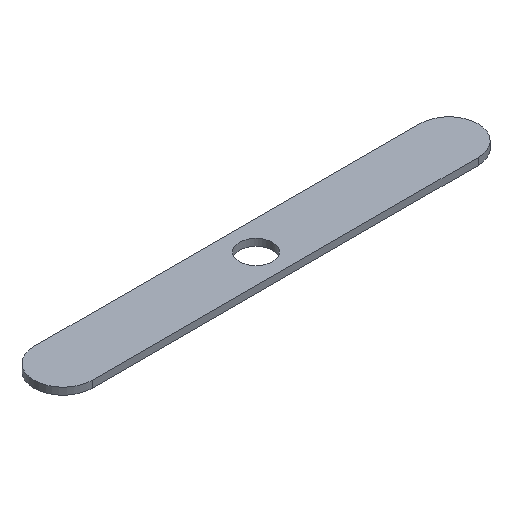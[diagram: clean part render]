
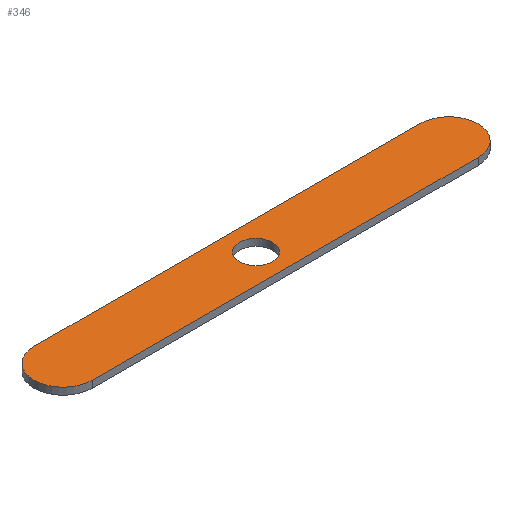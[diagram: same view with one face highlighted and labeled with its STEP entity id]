
A CAD part, isometric view. The second image highlights one B-rep face of the part: STEP entity #346.
In plain terms, the highlighted planar face has unit normal (0, 0, 1).
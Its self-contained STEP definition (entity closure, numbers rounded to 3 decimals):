
#24 = VERTEX_POINT('',#25);
#25 = CARTESIAN_POINT('',(-139.,21.,5.));
#32 = PLANE('',#33);
#33 = AXIS2_PLACEMENT_3D('',#34,#35,#36);
#34 = CARTESIAN_POINT('',(-139.,21.,0.));
#35 = DIRECTION('',(0.,1.,0.));
#36 = DIRECTION('',(1.,0.,0.));
#44 = CYLINDRICAL_SURFACE('',#45,21.);
#45 = AXIS2_PLACEMENT_3D('',#46,#47,#48);
#46 = CARTESIAN_POINT('',(-139.,0.,0.));
#47 = DIRECTION('',(0.,-0.,-1.));
#48 = DIRECTION('',(0.,-1.,0.));
#56 = EDGE_CURVE('',#24,#57,#59,.T.);
#57 = VERTEX_POINT('',#58);
#58 = CARTESIAN_POINT('',(139.,21.,5.));
#59 = SURFACE_CURVE('',#60,(#64,#71),.PCURVE_S1.);
#60 = LINE('',#61,#62);
#61 = CARTESIAN_POINT('',(-139.,21.,5.));
#62 = VECTOR('',#63,1.);
#63 = DIRECTION('',(1.,0.,0.));
#64 = PCURVE('',#32,#65);
#65 = DEFINITIONAL_REPRESENTATION('',(#66),#70);
#66 = LINE('',#67,#68);
#67 = CARTESIAN_POINT('',(0.,-5.));
#68 = VECTOR('',#69,1.);
#69 = DIRECTION('',(1.,0.));
#70 = ( GEOMETRIC_REPRESENTATION_CONTEXT(2) 
PARAMETRIC_REPRESENTATION_CONTEXT() REPRESENTATION_CONTEXT('2D SPACE',''
  ) );
#71 = PCURVE('',#72,#77);
#72 = PLANE('',#73);
#73 = AXIS2_PLACEMENT_3D('',#74,#75,#76);
#74 = CARTESIAN_POINT('',(0.,0.,5.));
#75 = DIRECTION('',(-0.,-0.,-1.));
#76 = DIRECTION('',(-1.,0.,0.));
#77 = DEFINITIONAL_REPRESENTATION('',(#78),#82);
#78 = LINE('',#79,#80);
#79 = CARTESIAN_POINT('',(139.,21.));
#80 = VECTOR('',#81,1.);
#81 = DIRECTION('',(-1.,0.));
#82 = ( GEOMETRIC_REPRESENTATION_CONTEXT(2) 
PARAMETRIC_REPRESENTATION_CONTEXT() REPRESENTATION_CONTEXT('2D SPACE',''
  ) );
#100 = CYLINDRICAL_SURFACE('',#101,21.);
#101 = AXIS2_PLACEMENT_3D('',#102,#103,#104);
#102 = CARTESIAN_POINT('',(139.,0.,0.));
#103 = DIRECTION('',(0.,0.,-1.));
#104 = DIRECTION('',(0.,1.,0.));
#144 = VERTEX_POINT('',#145);
#145 = CARTESIAN_POINT('',(-139.,-21.,5.));
#159 = PLANE('',#160);
#160 = AXIS2_PLACEMENT_3D('',#161,#162,#163);
#161 = CARTESIAN_POINT('',(139.,-21.,0.));
#162 = DIRECTION('',(0.,-1.,0.));
#163 = DIRECTION('',(-1.,0.,0.));
#171 = EDGE_CURVE('',#144,#24,#172,.T.);
#172 = SURFACE_CURVE('',#173,(#178,#185),.PCURVE_S1.);
#173 = CIRCLE('',#174,21.);
#174 = AXIS2_PLACEMENT_3D('',#175,#176,#177);
#175 = CARTESIAN_POINT('',(-139.,0.,5.));
#176 = DIRECTION('',(0.,-0.,-1.));
#177 = DIRECTION('',(0.,-1.,0.));
#178 = PCURVE('',#44,#179);
#179 = DEFINITIONAL_REPRESENTATION('',(#180),#184);
#180 = LINE('',#181,#182);
#181 = CARTESIAN_POINT('',(0.,-5.));
#182 = VECTOR('',#183,1.);
#183 = DIRECTION('',(1.,0.));
#184 = ( GEOMETRIC_REPRESENTATION_CONTEXT(2) 
PARAMETRIC_REPRESENTATION_CONTEXT() REPRESENTATION_CONTEXT('2D SPACE',''
  ) );
#185 = PCURVE('',#72,#186);
#186 = DEFINITIONAL_REPRESENTATION('',(#187),#191);
#187 = CIRCLE('',#188,21.);
#188 = AXIS2_PLACEMENT_2D('',#189,#190);
#189 = CARTESIAN_POINT('',(139.,0.));
#190 = DIRECTION('',(0.,-1.));
#191 = ( GEOMETRIC_REPRESENTATION_CONTEXT(2) 
PARAMETRIC_REPRESENTATION_CONTEXT() REPRESENTATION_CONTEXT('2D SPACE',''
  ) );
#220 = EDGE_CURVE('',#57,#221,#223,.T.);
#221 = VERTEX_POINT('',#222);
#222 = CARTESIAN_POINT('',(139.,-21.,5.));
#223 = SURFACE_CURVE('',#224,(#229,#236),.PCURVE_S1.);
#224 = CIRCLE('',#225,21.);
#225 = AXIS2_PLACEMENT_3D('',#226,#227,#228);
#226 = CARTESIAN_POINT('',(139.,0.,5.));
#227 = DIRECTION('',(0.,0.,-1.));
#228 = DIRECTION('',(0.,1.,0.));
#229 = PCURVE('',#100,#230);
#230 = DEFINITIONAL_REPRESENTATION('',(#231),#235);
#231 = LINE('',#232,#233);
#232 = CARTESIAN_POINT('',(0.,-5.));
#233 = VECTOR('',#234,1.);
#234 = DIRECTION('',(1.,0.));
#235 = ( GEOMETRIC_REPRESENTATION_CONTEXT(2) 
PARAMETRIC_REPRESENTATION_CONTEXT() REPRESENTATION_CONTEXT('2D SPACE',''
  ) );
#236 = PCURVE('',#72,#237);
#237 = DEFINITIONAL_REPRESENTATION('',(#238),#242);
#238 = CIRCLE('',#239,21.);
#239 = AXIS2_PLACEMENT_2D('',#240,#241);
#240 = CARTESIAN_POINT('',(-139.,0.));
#241 = DIRECTION('',(0.,1.));
#242 = ( GEOMETRIC_REPRESENTATION_CONTEXT(2) 
PARAMETRIC_REPRESENTATION_CONTEXT() REPRESENTATION_CONTEXT('2D SPACE',''
  ) );
#335 = CYLINDRICAL_SURFACE('',#336,12.);
#336 = AXIS2_PLACEMENT_3D('',#337,#338,#339);
#337 = CARTESIAN_POINT('',(0.,0.,5.));
#338 = DIRECTION('',(0.,0.,-1.));
#339 = DIRECTION('',(-1.,0.,0.));
#346 = ADVANCED_FACE('',(#347,#373),#72,.F.);
#347 = FACE_BOUND('',#348,.F.);
#348 = EDGE_LOOP('',(#349,#350,#351,#372));
#349 = ORIENTED_EDGE('',*,*,#56,.T.);
#350 = ORIENTED_EDGE('',*,*,#220,.T.);
#351 = ORIENTED_EDGE('',*,*,#352,.T.);
#352 = EDGE_CURVE('',#221,#144,#353,.T.);
#353 = SURFACE_CURVE('',#354,(#358,#365),.PCURVE_S1.);
#354 = LINE('',#355,#356);
#355 = CARTESIAN_POINT('',(139.,-21.,5.));
#356 = VECTOR('',#357,1.);
#357 = DIRECTION('',(-1.,0.,0.));
#358 = PCURVE('',#72,#359);
#359 = DEFINITIONAL_REPRESENTATION('',(#360),#364);
#360 = LINE('',#361,#362);
#361 = CARTESIAN_POINT('',(-139.,-21.));
#362 = VECTOR('',#363,1.);
#363 = DIRECTION('',(1.,0.));
#364 = ( GEOMETRIC_REPRESENTATION_CONTEXT(2) 
PARAMETRIC_REPRESENTATION_CONTEXT() REPRESENTATION_CONTEXT('2D SPACE',''
  ) );
#365 = PCURVE('',#159,#366);
#366 = DEFINITIONAL_REPRESENTATION('',(#367),#371);
#367 = LINE('',#368,#369);
#368 = CARTESIAN_POINT('',(0.,-5.));
#369 = VECTOR('',#370,1.);
#370 = DIRECTION('',(1.,0.));
#371 = ( GEOMETRIC_REPRESENTATION_CONTEXT(2) 
PARAMETRIC_REPRESENTATION_CONTEXT() REPRESENTATION_CONTEXT('2D SPACE',''
  ) );
#372 = ORIENTED_EDGE('',*,*,#171,.T.);
#373 = FACE_BOUND('',#374,.F.);
#374 = EDGE_LOOP('',(#375));
#375 = ORIENTED_EDGE('',*,*,#376,.F.);
#376 = EDGE_CURVE('',#377,#377,#379,.T.);
#377 = VERTEX_POINT('',#378);
#378 = CARTESIAN_POINT('',(-12.,0.,5.));
#379 = SURFACE_CURVE('',#380,(#385,#392),.PCURVE_S1.);
#380 = CIRCLE('',#381,12.);
#381 = AXIS2_PLACEMENT_3D('',#382,#383,#384);
#382 = CARTESIAN_POINT('',(0.,0.,5.));
#383 = DIRECTION('',(0.,0.,-1.));
#384 = DIRECTION('',(-1.,0.,0.));
#385 = PCURVE('',#72,#386);
#386 = DEFINITIONAL_REPRESENTATION('',(#387),#391);
#387 = CIRCLE('',#388,12.);
#388 = AXIS2_PLACEMENT_2D('',#389,#390);
#389 = CARTESIAN_POINT('',(0.,0.));
#390 = DIRECTION('',(1.,0.));
#391 = ( GEOMETRIC_REPRESENTATION_CONTEXT(2) 
PARAMETRIC_REPRESENTATION_CONTEXT() REPRESENTATION_CONTEXT('2D SPACE',''
  ) );
#392 = PCURVE('',#335,#393);
#393 = DEFINITIONAL_REPRESENTATION('',(#394),#398);
#394 = LINE('',#395,#396);
#395 = CARTESIAN_POINT('',(0.,0.));
#396 = VECTOR('',#397,1.);
#397 = DIRECTION('',(1.,0.));
#398 = ( GEOMETRIC_REPRESENTATION_CONTEXT(2) 
PARAMETRIC_REPRESENTATION_CONTEXT() REPRESENTATION_CONTEXT('2D SPACE',''
  ) );
